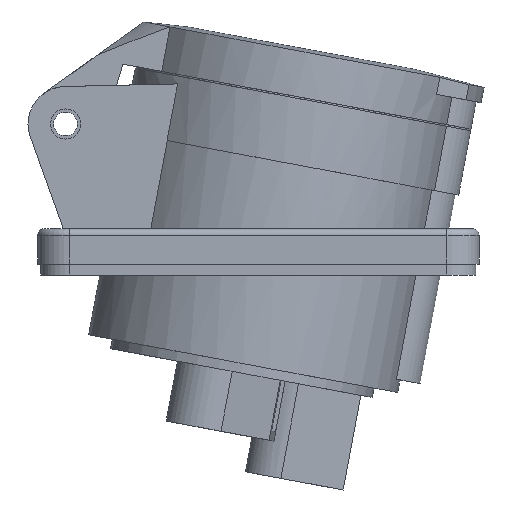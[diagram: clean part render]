
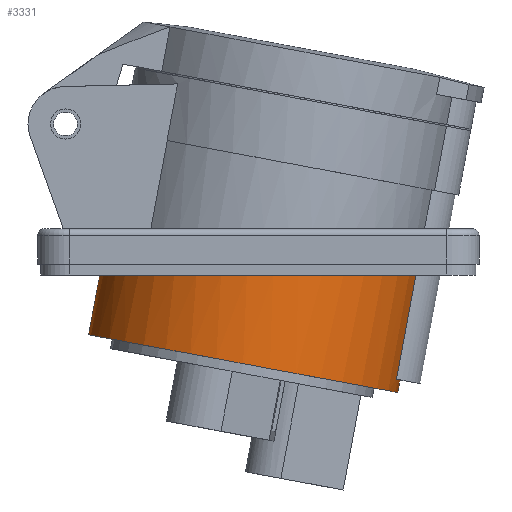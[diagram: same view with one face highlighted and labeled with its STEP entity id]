
A CAD part, left-side view. The second image highlights one B-rep face of the part: STEP entity #3331.
In plain terms, the highlighted cylindrical face has radius 24.5 mm (diameter 49 mm), a partial arc.
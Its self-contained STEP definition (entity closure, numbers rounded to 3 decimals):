
#726 = CARTESIAN_POINT ( 'NONE',  ( -5.25, -24.557, -1.7 ) ) ;
#727 = CARTESIAN_POINT ( 'NONE',  ( -44.396, -15.82, -1.7 ) ) ;
#728 = CARTESIAN_POINT ( 'NONE',  ( -40.076, 24.712, -1.7 ) ) ;
#729 = CARTESIAN_POINT ( 'NONE',  ( 0., 24.712, -1.7 ) ) ;
#898 = CARTESIAN_POINT ( 'NONE',  ( 0., 2., -13.534 ) ) ;
#899 = DIRECTION ( 'NONE',  ( 0., -0.184, 0.983 ) ) ;
#900 = DIRECTION ( 'NONE',  ( 0., 0.983, 0.184 ) ) ;
#1351 = CARTESIAN_POINT ( 'NONE',  ( -5.25, -24.557, -1.7 ) ) ;
#1360 = CARTESIAN_POINT ( 'NONE',  ( -5.25, -21.524, -17.929 ) ) ;
#1401 = CARTESIAN_POINT ( 'NONE',  ( 0., -21.716, -20. ) ) ;
#1404 = CARTESIAN_POINT ( 'NONE',  ( 0., 24.712, -1.7 ) ) ;
#1405 = CARTESIAN_POINT ( 'NONE',  ( 0., 26.45, -11. ) ) ;
#1407 = CARTESIAN_POINT ( 'NONE',  ( 0., -22.084, -18.034 ) ) ;
#1698 = CYLINDRICAL_SURFACE ( 'NONE', #1703, 24.5 ) ;
#1703 = AXIS2_PLACEMENT_3D ( 'NONE', #6701, #6702, #6703 ) ;
#1723 = FACE_OUTER_BOUND ( 'NONE', #5250, .T. ) ;
#2079 = VECTOR ( 'NONE', #7705, 1000. ) ;
#2086 = AXIS2_PLACEMENT_3D ( 'NONE', #7680, #7681, #7682 ) ;
#2382 = AXIS2_PLACEMENT_3D ( 'NONE', #898, #899, #900 ) ;
#2496 = VECTOR ( 'NONE', #7140, 1000. ) ;
#2501 = VECTOR ( 'NONE', #7119, 1000. ) ;
#3000 = ORIENTED_EDGE ( 'NONE', *, *, #3588, .F. ) ;
#3001 = ORIENTED_EDGE ( 'NONE', *, *, #3869, .T. ) ;
#3002 = ORIENTED_EDGE ( 'NONE', *, *, #3455, .T. ) ;
#3003 = ORIENTED_EDGE ( 'NONE', *, *, #3926, .F. ) ;
#3004 = ORIENTED_EDGE ( 'NONE', *, *, #3462, .F. ) ;
#3005 = ORIENTED_EDGE ( 'NONE', *, *, #3594, .F. ) ;
#3190 =( BOUNDED_CURVE ( )  B_SPLINE_CURVE ( 3, ( #726, #727, #728, #729 ),
 .UNSPECIFIED., .F., .F. ) 
 B_SPLINE_CURVE_WITH_KNOTS ( ( 4, 4 ),
 ( 3.358, 6.283 ),
 .UNSPECIFIED. ) 
 CURVE ( )  GEOMETRIC_REPRESENTATION_ITEM ( )  RATIONAL_B_SPLINE_CURVE ( ( 1., 0.405, 0.405, 1. ) ) 
 REPRESENTATION_ITEM ( '' )  );
#3331 = ADVANCED_FACE ( 'NONE', ( #1723 ), #1698, .T. ) ;
#3455 = EDGE_CURVE ( 'NONE', #4693, #4694, #7117, .T. ) ;
#3462 = EDGE_CURVE ( 'NONE', #4696, #4690, #7138, .T. ) ;
#3588 = EDGE_CURVE ( 'NONE', #4690, #4694, #6483, .T. ) ;
#3594 = EDGE_CURVE ( 'NONE', #4638, #4648, #7703, .T. ) ;
#3869 = EDGE_CURVE ( 'NONE', #4638, #4693, #3190, .T. ) ;
#3926 = EDGE_CURVE ( 'NONE', #4648, #4696, #6589, .T. ) ;
#4638 = VERTEX_POINT ( 'NONE', #1351 ) ;
#4648 = VERTEX_POINT ( 'NONE', #1360 ) ;
#4690 = VERTEX_POINT ( 'NONE', #1401 ) ;
#4693 = VERTEX_POINT ( 'NONE', #1404 ) ;
#4694 = VERTEX_POINT ( 'NONE', #1405 ) ;
#4696 = VERTEX_POINT ( 'NONE', #1407 ) ;
#5250 = EDGE_LOOP ( 'NONE', ( #3004, #3003, #3005, #3001, #3002, #3000 ) ) ;
#6483 = CIRCLE ( 'NONE', #2086, 24.5 ) ;
#6589 = CIRCLE ( 'NONE', #2382, 24.5 ) ;
#6701 = CARTESIAN_POINT ( 'NONE',  ( 0., -3.511, 15.956 ) ) ;
#6702 = DIRECTION ( 'NONE',  ( 0., 0.184, -0.983 ) ) ;
#6703 = DIRECTION ( 'NONE',  ( 0., 0.983, 0.184 ) ) ;
#7117 = LINE ( 'NONE', #7118, #2501 ) ;
#7118 = CARTESIAN_POINT ( 'NONE',  ( 0., 20.573, 20.456 ) ) ;
#7119 = DIRECTION ( 'NONE',  ( 0., 0.184, -0.983 ) ) ;
#7138 = LINE ( 'NONE', #7139, #2496 ) ;
#7139 = CARTESIAN_POINT ( 'NONE',  ( 0., -27.594, 11.456 ) ) ;
#7140 = DIRECTION ( 'NONE',  ( 0., 0.184, -0.983 ) ) ;
#7680 = CARTESIAN_POINT ( 'NONE',  ( 0., 2.367, -15.5 ) ) ;
#7681 = DIRECTION ( 'NONE',  ( 0., 0.184, -0.983 ) ) ;
#7682 = DIRECTION ( 'NONE',  ( 0., 0.983, 0.184 ) ) ;
#7703 = LINE ( 'NONE', #7704, #2079 ) ;
#7704 = CARTESIAN_POINT ( 'NONE',  ( -5.25, -27.034, 11.56 ) ) ;
#7705 = DIRECTION ( 'NONE',  ( 0., 0.184, -0.983 ) ) ;
